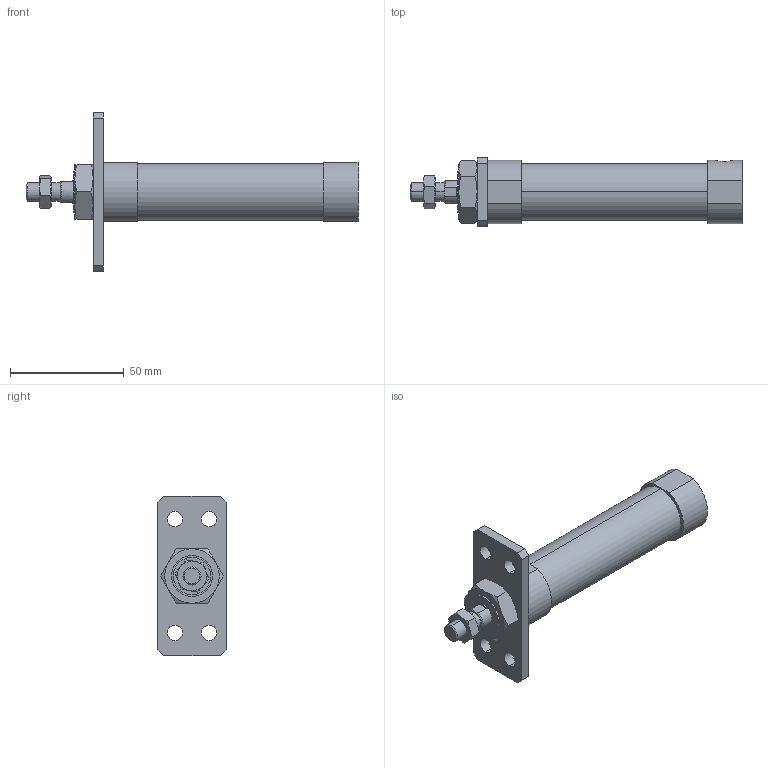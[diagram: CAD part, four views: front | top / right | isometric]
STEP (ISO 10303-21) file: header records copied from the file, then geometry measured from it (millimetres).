
FILE_DESCRIPTION (( 'STEP AP203' ), '1' );
FILE_NAME ('JGND1-20-15(25)-A.STEP', '2016-08-04T02:12:22', ( '' ), ( '' ), 'SwSTEP 2.0', 'SolidWorks 2014', '' );
FILE_SCHEMA (( 'CONFIG_CONTROL_DESIGN' ));
Length unit declared in the file: millimetre
Products named in the file (5): J#2-20-A; JGND1-20-15(25)-A; J#1-20-15(P)
Assembly tree (4 placements, depth 2):
  JGND1-20-15(25)-A
    J#1-20-15(P)
    (unnamed)
    (unnamed)
    J#2-20-A
Bounding box: 146 x 30 x 70 mm (x, y, z)
Volume: 72363.3 mm3; surface area: 19130.6 mm2
Topology: 4 solids, 4 shells, 101 faces, 230 edges, 144 vertices
Faces by surface type: plane 43, cylinder 30, torus 24, cone 4
Entity records: 3663 total; most frequent: CARTESIAN_POINT 872, DIRECTION 482, ORIENTED_EDGE 460, EDGE_CURVE 230, AXIS2_PLACEMENT_3D 198, VERTEX_POINT 144, EDGE_LOOP 122, FACE_OUTER_BOUND 101
